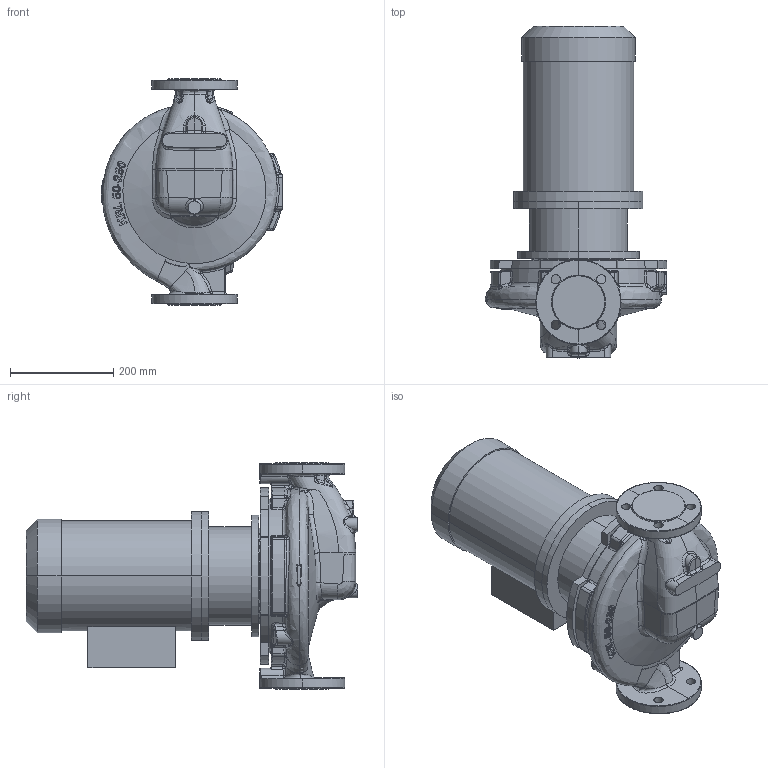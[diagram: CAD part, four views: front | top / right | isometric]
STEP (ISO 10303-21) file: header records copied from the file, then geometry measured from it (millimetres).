
FILE_DESCRIPTION (( 'STEP AP214' ), '1' );
FILE_NAME ('KRL 50-250-4-4.STEP', '2026-03-23T07:21:21', ( '' ), ( '' ), 'SwSTEP 2.0', 'SolidWorks 2016', '' );
FILE_SCHEMA (( 'AUTOMOTIVE_DESIGN' ));
Length unit declared in the file: millimetre
Products named in the file (1): KRL 50-250-4-4
Bounding box: 351.57 x 643.3 x 440 mm (x, y, z)
Volume: 29625303.2 mm3; surface area: 1224544.5 mm2
Topology: 4 solids, 4 shells, 873 faces, 2158 edges, 1302 vertices
Faces by surface type: bspline 456, plane 150, cylinder 141, sphere 47, cone 44, torus 35
Entity records: 74287 total; most frequent: CARTESIAN_POINT 47844, ORIENTED_EDGE 4272, DIRECTION 2411, EDGE_CURVE 2136, VERTEX_POINT 1302, AXIS2_PLACEMENT_3D 987, B_SPLINE_CURVE_WITH_KNOTS 960, EDGE_LOOP 920
